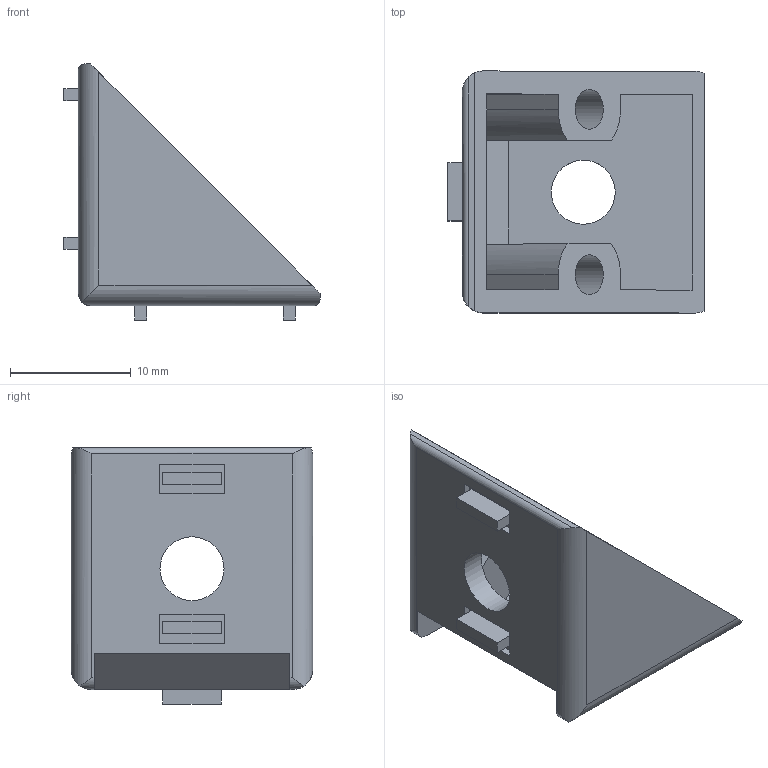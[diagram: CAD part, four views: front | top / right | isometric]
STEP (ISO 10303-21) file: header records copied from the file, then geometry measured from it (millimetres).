
FILE_DESCRIPTION(/* description */ (''),/* implementation_level */ '2;1');
FILE_NAME(/* name */ 'C:\Dokumente und Einstellungen\Buero_44\Eigene Dateien\Neu gemachte Zeichnungen und 3-D Dateien\Neuer Ordner\20.10.2014\S205W20\S205W20.stp',/* time_stamp */ '2014-10-20T15:42:31+02:00',/* author */ ('Buero_44'),/* organization */ (''),/* preprocessor_version */ 'ST-DEVELOPER v15.2',/* originating_system */ 'Autodesk Inventor 2014',/* authorisation */ '');
FILE_SCHEMA (('AUTOMOTIVE_DESIGN { 1 0 10303 214 3 1 1 }'));
Length unit declared in the file: millimetre
Products named in the file (1): S205W20
Bounding box: 21.2 x 20 x 21.2 mm (x, y, z)
Volume: 2289.8 mm3; surface area: 2469.1 mm2
Topology: 1 solids, 1 shells, 81 faces, 204 edges, 136 vertices
Faces by surface type: plane 65, cylinder 16
Full cylindrical faces by diameter (mm): 3.3 x2, 5.3 x2
Entity records: 2496 total; most frequent: CARTESIAN_POINT 462, ORIENTED_EDGE 400, DIRECTION 384, EDGE_CURVE 200, LINE 164, VECTOR 164, VERTEX_POINT 136, AXIS2_PLACEMENT_3D 110
